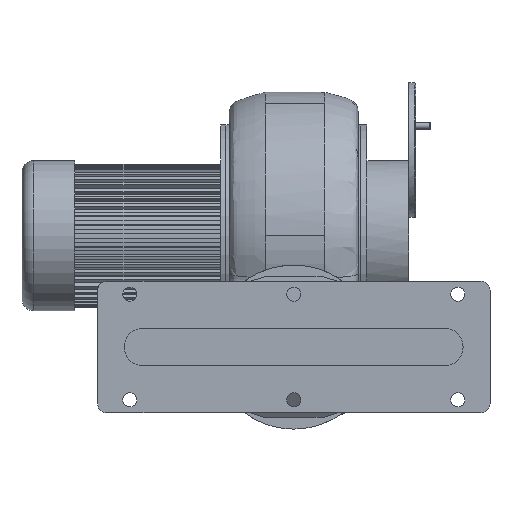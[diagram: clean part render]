
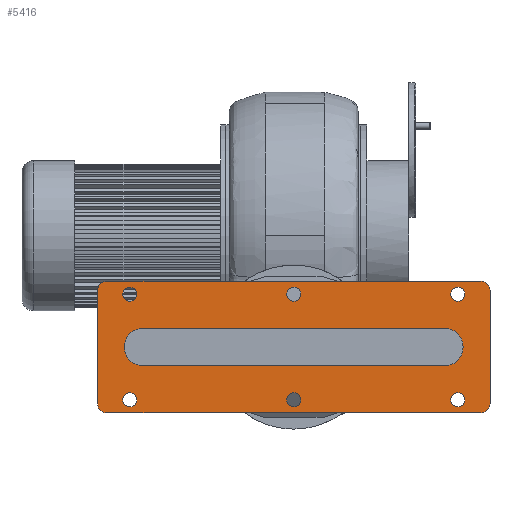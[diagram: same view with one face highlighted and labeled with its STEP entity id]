
A CAD part, front view. The second image highlights one B-rep face of the part: STEP entity #5416.
In plain terms, the highlighted planar face has unit normal (0, -1, 0).
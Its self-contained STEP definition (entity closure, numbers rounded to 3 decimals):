
#91=CIRCLE('',#5714,8.);
#93=CIRCLE('',#5718,8.);
#95=CIRCLE('',#5722,8.);
#98=CIRCLE('',#5727,6.);
#100=CIRCLE('',#5730,6.);
#102=CIRCLE('',#5733,6.);
#104=CIRCLE('',#5736,6.);
#106=CIRCLE('',#5739,6.);
#108=CIRCLE('',#5742,6.);
#109=CIRCLE('',#5744,8.);
#115=CIRCLE('',#5752,15.);
#116=CIRCLE('',#5753,15.);
#117=CIRCLE('',#5754,15.);
#118=CIRCLE('',#5755,15.);
#447=ORIENTED_EDGE('',*,*,#2051,.F.);
#448=ORIENTED_EDGE('',*,*,#2052,.F.);
#449=ORIENTED_EDGE('',*,*,#2053,.F.);
#450=ORIENTED_EDGE('',*,*,#2054,.F.);
#451=ORIENTED_EDGE('',*,*,#2055,.F.);
#452=ORIENTED_EDGE('',*,*,#2056,.F.);
#453=ORIENTED_EDGE('',*,*,#2057,.F.);
#454=ORIENTED_EDGE('',*,*,#2058,.F.);
#455=ORIENTED_EDGE('',*,*,#2042,.F.);
#456=ORIENTED_EDGE('',*,*,#2040,.F.);
#457=ORIENTED_EDGE('',*,*,#2038,.F.);
#458=ORIENTED_EDGE('',*,*,#2036,.F.);
#459=ORIENTED_EDGE('',*,*,#2034,.F.);
#460=ORIENTED_EDGE('',*,*,#2032,.F.);
#461=ORIENTED_EDGE('',*,*,#2009,.T.);
#462=ORIENTED_EDGE('',*,*,#2013,.T.);
#463=ORIENTED_EDGE('',*,*,#2016,.T.);
#464=ORIENTED_EDGE('',*,*,#2019,.T.);
#465=ORIENTED_EDGE('',*,*,#2022,.T.);
#466=ORIENTED_EDGE('',*,*,#2025,.T.);
#467=ORIENTED_EDGE('',*,*,#2028,.T.);
#468=ORIENTED_EDGE('',*,*,#2043,.T.);
#2009=EDGE_CURVE('',#2822,#2823,#3382,.T.);
#2013=EDGE_CURVE('',#2823,#2826,#91,.T.);
#2016=EDGE_CURVE('',#2826,#2828,#3387,.T.);
#2019=EDGE_CURVE('',#2828,#2830,#93,.T.);
#2022=EDGE_CURVE('',#2830,#2832,#3391,.T.);
#2025=EDGE_CURVE('',#2832,#2834,#95,.T.);
#2028=EDGE_CURVE('',#2834,#2836,#3395,.T.);
#2032=EDGE_CURVE('',#2839,#2839,#98,.T.);
#2034=EDGE_CURVE('',#2841,#2841,#100,.T.);
#2036=EDGE_CURVE('',#2843,#2843,#102,.T.);
#2038=EDGE_CURVE('',#2845,#2845,#104,.T.);
#2040=EDGE_CURVE('',#2847,#2847,#106,.T.);
#2042=EDGE_CURVE('',#2849,#2849,#108,.T.);
#2043=EDGE_CURVE('',#2836,#2822,#109,.T.);
#2051=EDGE_CURVE('',#2856,#2857,#3400,.T.);
#2052=EDGE_CURVE('',#2858,#2856,#115,.T.);
#2053=EDGE_CURVE('',#2859,#2858,#3401,.T.);
#2054=EDGE_CURVE('',#2860,#2859,#116,.T.);
#2055=EDGE_CURVE('',#2861,#2860,#3402,.T.);
#2056=EDGE_CURVE('',#2862,#2861,#117,.T.);
#2057=EDGE_CURVE('',#2863,#2862,#3403,.T.);
#2058=EDGE_CURVE('',#2857,#2863,#118,.T.);
#2822=VERTEX_POINT('',#7734);
#2823=VERTEX_POINT('',#7735);
#2826=VERTEX_POINT('',#7743);
#2828=VERTEX_POINT('',#7749);
#2830=VERTEX_POINT('',#7755);
#2832=VERTEX_POINT('',#7761);
#2834=VERTEX_POINT('',#7767);
#2836=VERTEX_POINT('',#7773);
#2839=VERTEX_POINT('',#7781);
#2841=VERTEX_POINT('',#7786);
#2843=VERTEX_POINT('',#7791);
#2845=VERTEX_POINT('',#7796);
#2847=VERTEX_POINT('',#7801);
#2849=VERTEX_POINT('',#7806);
#2856=VERTEX_POINT('',#7825);
#2857=VERTEX_POINT('',#7826);
#2858=VERTEX_POINT('',#7828);
#2859=VERTEX_POINT('',#7830);
#2860=VERTEX_POINT('',#7832);
#2861=VERTEX_POINT('',#7834);
#2862=VERTEX_POINT('',#7836);
#2863=VERTEX_POINT('',#7838);
#3382=LINE('',#7733,#3947);
#3387=LINE('',#7748,#3952);
#3391=LINE('',#7760,#3956);
#3395=LINE('',#7772,#3960);
#3400=LINE('',#7824,#3965);
#3401=LINE('',#7829,#3966);
#3402=LINE('',#7833,#3967);
#3403=LINE('',#7837,#3968);
#3947=VECTOR('',#6200,1000.);
#3952=VECTOR('',#6213,1000.);
#3956=VECTOR('',#6225,1000.);
#3960=VECTOR('',#6237,1000.);
#3965=VECTOR('',#6296,1000.);
#3966=VECTOR('',#6299,1000.);
#3967=VECTOR('',#6302,1000.);
#3968=VECTOR('',#6305,1000.);
#4540=EDGE_LOOP('',(#447,#448,#449,#450,#451,#452,#453,#454));
#4541=EDGE_LOOP('',(#455));
#4542=EDGE_LOOP('',(#456));
#4543=EDGE_LOOP('',(#457));
#4544=EDGE_LOOP('',(#458));
#4545=EDGE_LOOP('',(#459));
#4546=EDGE_LOOP('',(#460));
#4547=EDGE_LOOP('',(#461,#462,#463,#464,#465,#466,#467,#468));
#4893=FACE_BOUND('',#4540,.T.);
#4894=FACE_BOUND('',#4541,.T.);
#4895=FACE_BOUND('',#4542,.T.);
#4896=FACE_BOUND('',#4543,.T.);
#4897=FACE_BOUND('',#4544,.T.);
#4898=FACE_BOUND('',#4545,.T.);
#4899=FACE_BOUND('',#4546,.T.);
#4900=FACE_BOUND('',#4547,.T.);
#5223=PLANE('',#5751);
#5416=ADVANCED_FACE('',(#4893,#4894,#4895,#4896,#4897,#4898,#4899,#4900),
#5223,.T.);
#5714=AXIS2_PLACEMENT_3D('',#7742,#6206,#6207);
#5718=AXIS2_PLACEMENT_3D('',#7754,#6218,#6219);
#5722=AXIS2_PLACEMENT_3D('',#7766,#6230,#6231);
#5727=AXIS2_PLACEMENT_3D('',#7780,#6244,#6245);
#5730=AXIS2_PLACEMENT_3D('',#7785,#6250,#6251);
#5733=AXIS2_PLACEMENT_3D('',#7790,#6256,#6257);
#5736=AXIS2_PLACEMENT_3D('',#7795,#6262,#6263);
#5739=AXIS2_PLACEMENT_3D('',#7800,#6268,#6269);
#5742=AXIS2_PLACEMENT_3D('',#7805,#6274,#6275);
#5744=AXIS2_PLACEMENT_3D('',#7808,#6278,#6279);
#5751=AXIS2_PLACEMENT_3D('',#7823,#6294,#6295);
#5752=AXIS2_PLACEMENT_3D('',#7827,#6297,#6298);
#5753=AXIS2_PLACEMENT_3D('',#7831,#6300,#6301);
#5754=AXIS2_PLACEMENT_3D('',#7835,#6303,#6304);
#5755=AXIS2_PLACEMENT_3D('',#7839,#6306,#6307);
#6200=DIRECTION('',(0.,0.,-1.));
#6206=DIRECTION('',(0.,-1.,0.));
#6207=DIRECTION('',(1.,0.,0.));
#6213=DIRECTION('',(1.,0.,0.));
#6218=DIRECTION('',(0.,-1.,0.));
#6219=DIRECTION('',(-1.,0.,0.));
#6225=DIRECTION('',(0.,0.,1.));
#6230=DIRECTION('',(0.,-1.,0.));
#6231=DIRECTION('',(1.,0.,0.));
#6237=DIRECTION('',(-1.,0.,0.));
#6244=DIRECTION('',(0.,-1.,0.));
#6245=DIRECTION('',(1.,0.,0.));
#6250=DIRECTION('',(0.,-1.,0.));
#6251=DIRECTION('',(1.,0.,0.));
#6256=DIRECTION('',(0.,-1.,0.));
#6257=DIRECTION('',(1.,0.,0.));
#6262=DIRECTION('',(0.,-1.,0.));
#6263=DIRECTION('',(1.,0.,0.));
#6268=DIRECTION('',(0.,-1.,0.));
#6269=DIRECTION('',(1.,0.,0.));
#6274=DIRECTION('',(0.,-1.,0.));
#6275=DIRECTION('',(1.,0.,0.));
#6278=DIRECTION('',(0.,-1.,0.));
#6279=DIRECTION('',(1.,0.,0.));
#6294=DIRECTION('',(0.,-1.,0.));
#6295=DIRECTION('',(1.,0.,0.));
#6296=DIRECTION('',(-1.,0.,0.));
#6297=DIRECTION('',(0.,-1.,0.));
#6298=DIRECTION('',(1.,0.,0.));
#6299=DIRECTION('',(0.,0.,1.));
#6300=DIRECTION('',(0.,-1.,0.));
#6301=DIRECTION('',(-1.,0.,0.));
#6302=DIRECTION('',(1.,0.,0.));
#6303=DIRECTION('',(0.,-1.,0.));
#6304=DIRECTION('',(1.,0.,0.));
#6305=DIRECTION('',(0.,0.,-1.));
#6306=DIRECTION('',(0.,-1.,0.));
#6307=DIRECTION('',(1.,0.,0.));
#7733=CARTESIAN_POINT('',(-167.5,-263.003,-143.25));
#7734=CARTESIAN_POINT('',(-167.5,-263.003,-46.75));
#7735=CARTESIAN_POINT('',(-167.5,-263.003,-143.25));
#7742=CARTESIAN_POINT('',(-159.5,-263.003,-143.25));
#7743=CARTESIAN_POINT('',(-159.5,-263.003,-151.25));
#7748=CARTESIAN_POINT('',(-159.5,-263.003,-151.25));
#7749=CARTESIAN_POINT('',(159.5,-263.003,-151.25));
#7754=CARTESIAN_POINT('',(159.5,-263.003,-143.25));
#7755=CARTESIAN_POINT('',(167.5,-263.003,-143.25));
#7760=CARTESIAN_POINT('',(167.5,-263.003,-143.25));
#7761=CARTESIAN_POINT('',(167.5,-263.003,-46.75));
#7766=CARTESIAN_POINT('',(159.5,-263.003,-46.75));
#7767=CARTESIAN_POINT('',(159.5,-263.003,-38.75));
#7772=CARTESIAN_POINT('',(-159.5,-263.003,-38.75));
#7773=CARTESIAN_POINT('',(-159.5,-263.003,-38.75));
#7780=CARTESIAN_POINT('',(-140.,-263.003,-140.));
#7781=CARTESIAN_POINT('',(-134.,-263.003,-140.));
#7785=CARTESIAN_POINT('',(-140.,-263.003,-50.));
#7786=CARTESIAN_POINT('',(-134.,-263.003,-50.));
#7790=CARTESIAN_POINT('',(140.,-263.003,-50.));
#7791=CARTESIAN_POINT('',(146.,-263.003,-50.));
#7795=CARTESIAN_POINT('',(140.,-263.003,-140.));
#7796=CARTESIAN_POINT('',(146.,-263.003,-140.));
#7800=CARTESIAN_POINT('',(0.,-263.003,-50.));
#7801=CARTESIAN_POINT('',(6.,-263.003,-50.));
#7805=CARTESIAN_POINT('',(0.,-263.003,-140.));
#7806=CARTESIAN_POINT('',(6.,-263.003,-140.));
#7808=CARTESIAN_POINT('',(-159.5,-263.003,-46.75));
#7823=CARTESIAN_POINT('',(-159.5,-263.003,-143.25));
#7824=CARTESIAN_POINT('',(-129.5,-263.003,-79.25));
#7825=CARTESIAN_POINT('',(129.5,-263.003,-79.25));
#7826=CARTESIAN_POINT('',(-129.5,-263.003,-79.25));
#7827=CARTESIAN_POINT('',(129.5,-263.003,-94.25));
#7828=CARTESIAN_POINT('',(144.5,-263.003,-94.25));
#7829=CARTESIAN_POINT('',(144.5,-263.003,-95.75));
#7830=CARTESIAN_POINT('',(144.5,-263.003,-95.75));
#7831=CARTESIAN_POINT('',(129.5,-263.003,-95.75));
#7832=CARTESIAN_POINT('',(129.5,-263.003,-110.75));
#7833=CARTESIAN_POINT('',(-129.5,-263.003,-110.75));
#7834=CARTESIAN_POINT('',(-129.5,-263.003,-110.75));
#7835=CARTESIAN_POINT('',(-129.5,-263.003,-95.75));
#7836=CARTESIAN_POINT('',(-144.5,-263.003,-95.75));
#7837=CARTESIAN_POINT('',(-144.5,-263.003,-95.75));
#7838=CARTESIAN_POINT('',(-144.5,-263.003,-94.25));
#7839=CARTESIAN_POINT('',(-129.5,-263.003,-94.25));
